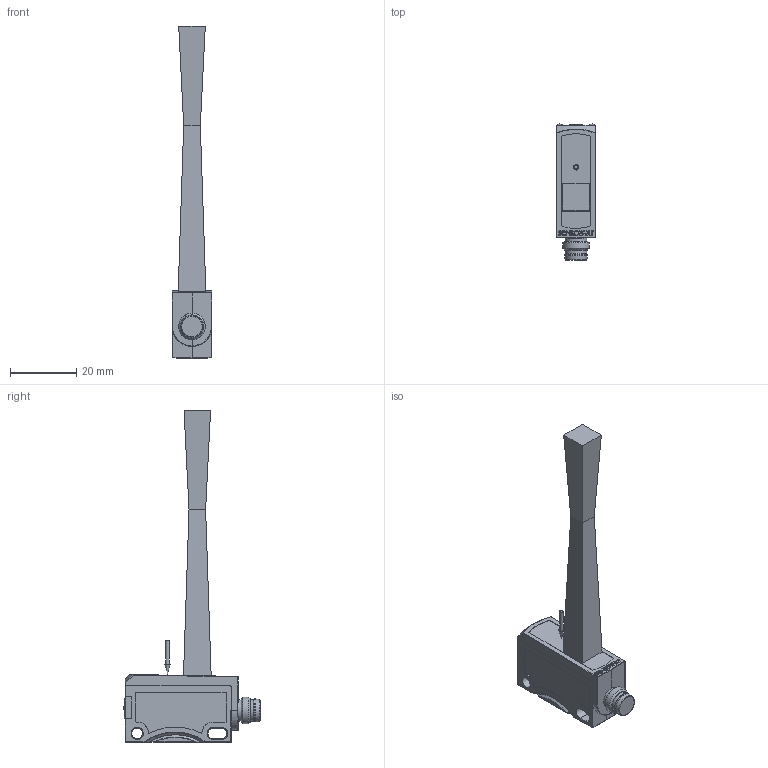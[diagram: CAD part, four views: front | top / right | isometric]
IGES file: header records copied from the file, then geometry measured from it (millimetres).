
Global section: file name: 604-41000_FT 25-RA-60-PSU-M4M; native system: Autodesk Inventor 2023; preprocessor: unknown; author: Sandra.Stahl; date: 20231005.131311; units: millimetre
Bounding box: 12 x 41 x 99.97 mm (x, y, z)
Volume: 11465.8 mm3; surface area: 5348.4 mm2
Topology: 3 solids, 3 shells, 270 faces, 656 edges, 398 vertices
Faces by surface type: bspline 270
